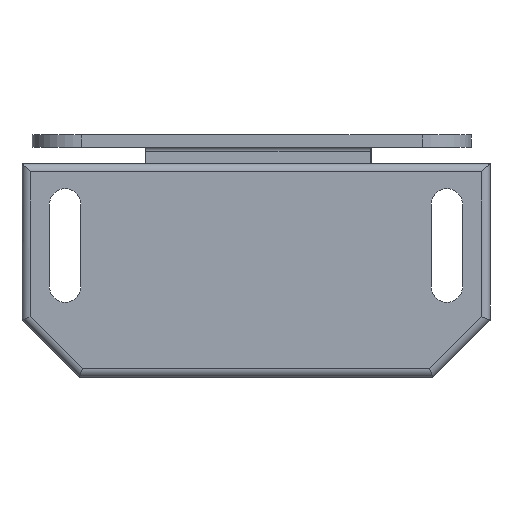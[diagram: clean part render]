
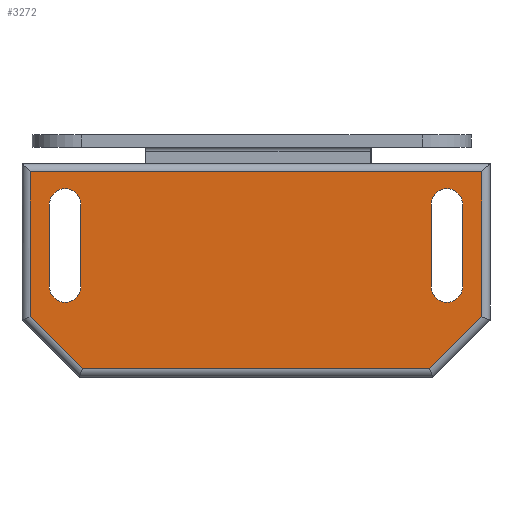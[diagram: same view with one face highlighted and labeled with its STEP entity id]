
A CAD part, front view. The second image highlights one B-rep face of the part: STEP entity #3272.
In plain terms, the highlighted planar face has unit normal (0, -1, 0).
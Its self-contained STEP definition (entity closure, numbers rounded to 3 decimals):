
#2 = VECTOR ( 'NONE', #3504, 1000. ) ;
#31 = CIRCLE ( 'NONE', #3648, 1.91 ) ;
#44 = CARTESIAN_POINT ( 'NONE',  ( -27.5, 0., 0. ) ) ;
#64 = VERTEX_POINT ( 'NONE', #326 ) ;
#73 = ORIENTED_EDGE ( 'NONE', *, *, #608, .F. ) ;
#96 = DIRECTION ( 'NONE',  ( 0., 0., 1. ) ) ;
#110 = ORIENTED_EDGE ( 'NONE', *, *, #1922, .F. ) ;
#208 = DIRECTION ( 'NONE',  ( 0., 0., 1. ) ) ;
#315 = ORIENTED_EDGE ( 'NONE', *, *, #1827, .F. ) ;
#326 = CARTESIAN_POINT ( 'NONE',  ( -21.34, 0., 9.04 ) ) ;
#365 = CARTESIAN_POINT ( 'NONE',  ( 21.136, 0., -11. ) ) ;
#385 = CARTESIAN_POINT ( 'NONE',  ( 25.16, 0., 9.04 ) ) ;
#446 = LINE ( 'NONE', #44, #2 ) ;
#477 = VERTEX_POINT ( 'NONE', #2750 ) ;
#478 = VERTEX_POINT ( 'NONE', #2353 ) ;
#484 = LINE ( 'NONE', #3537, #2665 ) ;
#498 = DIRECTION ( 'NONE',  ( 0., -1., 0. ) ) ;
#528 = ORIENTED_EDGE ( 'NONE', *, *, #2542, .F. ) ;
#534 = CARTESIAN_POINT ( 'NONE',  ( 21.34, 0., 9.04 ) ) ;
#543 = EDGE_LOOP ( 'NONE', ( #1925, #1086, #73, #3192, #2494 ) ) ;
#570 = CARTESIAN_POINT ( 'NONE',  ( -27.5, 0., 13. ) ) ;
#597 = CARTESIAN_POINT ( 'NONE',  ( 25.16, 0., 0. ) ) ;
#608 = EDGE_CURVE ( 'NONE', #611, #477, #1210, .T. ) ;
#611 = VERTEX_POINT ( 'NONE', #3173 ) ;
#649 = ORIENTED_EDGE ( 'NONE', *, *, #3065, .F. ) ;
#670 = VERTEX_POINT ( 'NONE', #2087 ) ;
#715 = VERTEX_POINT ( 'NONE', #2400 ) ;
#774 = LINE ( 'NONE', #3823, #2078 ) ;
#810 = EDGE_CURVE ( 'NONE', #670, #2727, #446, .T. ) ;
#873 = DIRECTION ( 'NONE',  ( 0., 0., 1. ) ) ;
#888 = CARTESIAN_POINT ( 'NONE',  ( 23.25, 0., -1. ) ) ;
#923 = DIRECTION ( 'NONE',  ( 0., 0., -1. ) ) ;
#932 = EDGE_CURVE ( 'NONE', #2453, #2765, #31, .T. ) ;
#937 = AXIS2_PLACEMENT_3D ( 'NONE', #1746, #1364, #954 ) ;
#954 = DIRECTION ( 'NONE',  ( 0., 0., 1. ) ) ;
#995 = LINE ( 'NONE', #597, #3317 ) ;
#1029 = DIRECTION ( 'NONE',  ( 1., 0., 0. ) ) ;
#1086 = ORIENTED_EDGE ( 'NONE', *, *, #1578, .F. ) ;
#1209 = AXIS2_PLACEMENT_3D ( 'NONE', #888, #498, #96 ) ;
#1210 = CIRCLE ( 'NONE', #1209, 1.91 ) ;
#1236 = CIRCLE ( 'NONE', #1541, 1.91 ) ;
#1262 = ORIENTED_EDGE ( 'NONE', *, *, #810, .F. ) ;
#1265 = DIRECTION ( 'NONE',  ( 0., -1., 0. ) ) ;
#1271 = DIRECTION ( 'NONE',  ( 0., 0., 1. ) ) ;
#1282 = EDGE_CURVE ( 'NONE', #2727, #478, #1810, .T. ) ;
#1302 = FACE_BOUND ( 'NONE', #1341, .T. ) ;
#1329 = CARTESIAN_POINT ( 'NONE',  ( 27.5, 0., 0. ) ) ;
#1341 = EDGE_LOOP ( 'NONE', ( #2773, #1469, #2708, #3169, #2688 ) ) ;
#1356 = EDGE_CURVE ( 'NONE', #3558, #1858, #2997, .T. ) ;
#1364 = DIRECTION ( 'NONE',  ( 0., -1., 0. ) ) ;
#1407 = EDGE_CURVE ( 'NONE', #2765, #2571, #1236, .T. ) ;
#1428 = CARTESIAN_POINT ( 'NONE',  ( 0., 0., 13. ) ) ;
#1469 = ORIENTED_EDGE ( 'NONE', *, *, #2415, .F. ) ;
#1541 = AXIS2_PLACEMENT_3D ( 'NONE', #2748, #2350, #1968 ) ;
#1578 = EDGE_CURVE ( 'NONE', #477, #2453, #995, .T. ) ;
#1643 = CARTESIAN_POINT ( 'NONE',  ( -23.25, 0., 10.95 ) ) ;
#1655 = CARTESIAN_POINT ( 'NONE',  ( -25.16, 0., 9.04 ) ) ;
#1670 = DIRECTION ( 'NONE',  ( 0., -1., 0. ) ) ;
#1688 = VECTOR ( 'NONE', #2299, 1000. ) ;
#1700 = EDGE_CURVE ( 'NONE', #2552, #64, #3507, .T. ) ;
#1717 = LINE ( 'NONE', #1329, #2751 ) ;
#1744 = DIRECTION ( 'NONE',  ( -1., 0., 0. ) ) ;
#1746 = CARTESIAN_POINT ( 'NONE',  ( -23.25, 0., 9.04 ) ) ;
#1760 = DIRECTION ( 'NONE',  ( 0., 0., 1. ) ) ;
#1761 = VECTOR ( 'NONE', #2720, 1000. ) ;
#1810 = LINE ( 'NONE', #1428, #2609 ) ;
#1827 = EDGE_CURVE ( 'NONE', #1976, #2243, #2537, .T. ) ;
#1858 = VERTEX_POINT ( 'NONE', #1655 ) ;
#1922 = EDGE_CURVE ( 'NONE', #715, #1976, #3089, .T. ) ;
#1925 = ORIENTED_EDGE ( 'NONE', *, *, #932, .F. ) ;
#1968 = DIRECTION ( 'NONE',  ( 0., 0., 1. ) ) ;
#1976 = VERTEX_POINT ( 'NONE', #365 ) ;
#2010 = DIRECTION ( 'NONE',  ( 0., 0., 1. ) ) ;
#2032 = EDGE_LOOP ( 'NONE', ( #315, #110, #528, #2971, #1262, #649 ) ) ;
#2047 = EDGE_CURVE ( 'NONE', #1858, #3294, #774, .T. ) ;
#2054 = CARTESIAN_POINT ( 'NONE',  ( -23.25, 0., 9.04 ) ) ;
#2060 = CARTESIAN_POINT ( 'NONE',  ( 23.25, 0., 9.04 ) ) ;
#2078 = VECTOR ( 'NONE', #3442, 1000. ) ;
#2087 = CARTESIAN_POINT ( 'NONE',  ( -27.5, 0., -4.635 ) ) ;
#2137 = CARTESIAN_POINT ( 'NONE',  ( 0., 0., -11. ) ) ;
#2150 = DIRECTION ( 'NONE',  ( 0., -1., 0. ) ) ;
#2243 = VERTEX_POINT ( 'NONE', #3506 ) ;
#2292 = FACE_BOUND ( 'NONE', #543, .T. ) ;
#2299 = DIRECTION ( 'NONE',  ( -0.707, 0., -0.707 ) ) ;
#2328 = VECTOR ( 'NONE', #3036, 1000. ) ;
#2350 = DIRECTION ( 'NONE',  ( 0., -1., 0. ) ) ;
#2353 = CARTESIAN_POINT ( 'NONE',  ( 27.5, 0., 13. ) ) ;
#2383 = EDGE_CURVE ( 'NONE', #2571, #611, #3824, .T. ) ;
#2392 = DIRECTION ( 'NONE',  ( 0., 1., 0. ) ) ;
#2400 = CARTESIAN_POINT ( 'NONE',  ( 27.5, 0., -4.635 ) ) ;
#2415 = EDGE_CURVE ( 'NONE', #3294, #2552, #3365, .T. ) ;
#2446 = CARTESIAN_POINT ( 'NONE',  ( 23.25, 0., 10.95 ) ) ;
#2453 = VERTEX_POINT ( 'NONE', #385 ) ;
#2458 = AXIS2_PLACEMENT_3D ( 'NONE', #2054, #1265, #873 ) ;
#2461 = CIRCLE ( 'NONE', #2458, 1.91 ) ;
#2494 = ORIENTED_EDGE ( 'NONE', *, *, #1407, .F. ) ;
#2537 = LINE ( 'NONE', #2137, #2658 ) ;
#2542 = EDGE_CURVE ( 'NONE', #478, #715, #1717, .T. ) ;
#2552 = VERTEX_POINT ( 'NONE', #2812 ) ;
#2559 = CARTESIAN_POINT ( 'NONE',  ( -23.25, 0., -1. ) ) ;
#2571 = VERTEX_POINT ( 'NONE', #534 ) ;
#2609 = VECTOR ( 'NONE', #1029, 1000. ) ;
#2633 = AXIS2_PLACEMENT_3D ( 'NONE', #2559, #2150, #1760 ) ;
#2658 = VECTOR ( 'NONE', #1744, 1000. ) ;
#2665 = VECTOR ( 'NONE', #3157, 1000. ) ;
#2688 = ORIENTED_EDGE ( 'NONE', *, *, #3052, .F. ) ;
#2691 = CARTESIAN_POINT ( 'NONE',  ( 27.5, 0., -4.635 ) ) ;
#2708 = ORIENTED_EDGE ( 'NONE', *, *, #2047, .F. ) ;
#2720 = DIRECTION ( 'NONE',  ( 0., 0., 1. ) ) ;
#2727 = VERTEX_POINT ( 'NONE', #570 ) ;
#2748 = CARTESIAN_POINT ( 'NONE',  ( 23.25, 0., 9.04 ) ) ;
#2750 = CARTESIAN_POINT ( 'NONE',  ( 25.16, 0., -1. ) ) ;
#2751 = VECTOR ( 'NONE', #923, 1000. ) ;
#2765 = VERTEX_POINT ( 'NONE', #2446 ) ;
#2773 = ORIENTED_EDGE ( 'NONE', *, *, #1700, .F. ) ;
#2798 = CARTESIAN_POINT ( 'NONE',  ( 0., 0., 0. ) ) ;
#2812 = CARTESIAN_POINT ( 'NONE',  ( -21.34, 0., -1. ) ) ;
#2887 = FACE_OUTER_BOUND ( 'NONE', #2032, .T. ) ;
#2971 = ORIENTED_EDGE ( 'NONE', *, *, #1282, .F. ) ;
#2980 = AXIS2_PLACEMENT_3D ( 'NONE', #2798, #2392, #2010 ) ;
#2997 = CIRCLE ( 'NONE', #937, 1.91 ) ;
#3036 = DIRECTION ( 'NONE',  ( 0., 0., -1. ) ) ;
#3052 = EDGE_CURVE ( 'NONE', #64, #3558, #2461, .T. ) ;
#3065 = EDGE_CURVE ( 'NONE', #2243, #670, #484, .T. ) ;
#3089 = LINE ( 'NONE', #2691, #1688 ) ;
#3100 = CARTESIAN_POINT ( 'NONE',  ( -25.16, 0., -1. ) ) ;
#3119 = CARTESIAN_POINT ( 'NONE',  ( -21.34, 0., 0. ) ) ;
#3157 = DIRECTION ( 'NONE',  ( -0.707, 0., 0.707 ) ) ;
#3169 = ORIENTED_EDGE ( 'NONE', *, *, #1356, .F. ) ;
#3173 = CARTESIAN_POINT ( 'NONE',  ( 21.34, 0., -1. ) ) ;
#3192 = ORIENTED_EDGE ( 'NONE', *, *, #2383, .F. ) ;
#3193 = PLANE ( 'NONE',  #2980 ) ;
#3272 = ADVANCED_FACE ( 'NONE', ( #1302, #2292, #2887 ), #3193, .F. ) ;
#3294 = VERTEX_POINT ( 'NONE', #3100 ) ;
#3317 = VECTOR ( 'NONE', #208, 1000. ) ;
#3365 = CIRCLE ( 'NONE', #2633, 1.91 ) ;
#3442 = DIRECTION ( 'NONE',  ( 0., 0., -1. ) ) ;
#3443 = CARTESIAN_POINT ( 'NONE',  ( 21.34, 0., 0. ) ) ;
#3504 = DIRECTION ( 'NONE',  ( 0., 0., 1. ) ) ;
#3506 = CARTESIAN_POINT ( 'NONE',  ( -21.136, 0., -11. ) ) ;
#3507 = LINE ( 'NONE', #3119, #1761 ) ;
#3537 = CARTESIAN_POINT ( 'NONE',  ( -21.136, 0., -11. ) ) ;
#3558 = VERTEX_POINT ( 'NONE', #1643 ) ;
#3648 = AXIS2_PLACEMENT_3D ( 'NONE', #2060, #1670, #1271 ) ;
#3823 = CARTESIAN_POINT ( 'NONE',  ( -25.16, 0., 0. ) ) ;
#3824 = LINE ( 'NONE', #3443, #2328 ) ;
